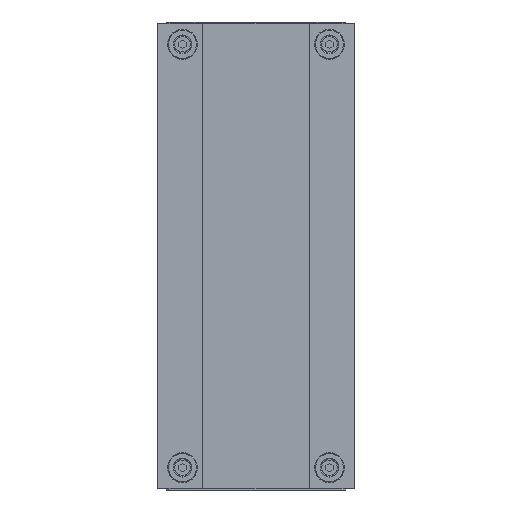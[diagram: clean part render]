
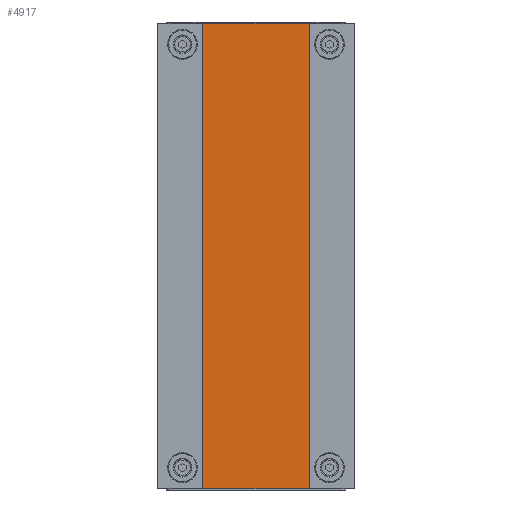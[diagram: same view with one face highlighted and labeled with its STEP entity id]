
A CAD part, front view. The second image highlights one B-rep face of the part: STEP entity #4917.
In plain terms, the highlighted planar face has unit normal (0, -1, 0).
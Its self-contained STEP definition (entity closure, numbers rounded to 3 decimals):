
#5 = EDGE_CURVE ( 'NONE', #10499, #9671, #148, .T. ) ;
#148 = LINE ( 'NONE', #149, #150 ) ;
#149 = CARTESIAN_POINT ( 'NONE',  ( 49.5, -16., 198. ) ) ;
#150 = VECTOR ( 'NONE', #151, 1000. ) ;
#151 = DIRECTION ( 'NONE',  ( 0., 0., -1. ) ) ;
#1511 = LINE ( 'NONE', #1512, #1513 ) ;
#1512 = CARTESIAN_POINT ( 'NONE',  ( -49.5, -16., 198. ) ) ;
#1513 = VECTOR ( 'NONE', #1514, 1000. ) ;
#1514 = DIRECTION ( 'NONE',  ( 0., 0., -1. ) ) ;
#1650 = CARTESIAN_POINT ( 'NONE',  ( 49.5, -16., -198. ) ) ;
#1741 = CARTESIAN_POINT ( 'NONE',  ( -49.5, -16., 198. ) ) ;
#3144 = FACE_OUTER_BOUND ( 'NONE', #5233, .T. ) ;
#3145 = PLANE ( 'NONE',  #3146 ) ;
#3146 = AXIS2_PLACEMENT_3D ( 'NONE', #3147, #3148, #3149 ) ;
#3147 = CARTESIAN_POINT ( 'NONE',  ( 49.5, -16., 198. ) ) ;
#3148 = DIRECTION ( 'NONE',  ( 0., 1., 0. ) ) ;
#3149 = DIRECTION ( 'NONE',  ( -1., 0., 0. ) ) ;
#3965 = LINE ( 'NONE', #3966, #3967 ) ;
#3966 = CARTESIAN_POINT ( 'NONE',  ( 49.5, -16., -198. ) ) ;
#3967 = VECTOR ( 'NONE', #3968, 1000. ) ;
#3968 = DIRECTION ( 'NONE',  ( 1., 0., 0. ) ) ;
#4528 = CARTESIAN_POINT ( 'NONE',  ( 49.5, -16., 198. ) ) ;
#4820 = LINE ( 'NONE', #4824, #4825 ) ;
#4824 = CARTESIAN_POINT ( 'NONE',  ( 49.5, -16., 198. ) ) ;
#4825 = VECTOR ( 'NONE', #4826, 1000. ) ;
#4826 = DIRECTION ( 'NONE',  ( 1., 0., 0. ) ) ;
#4917 = ADVANCED_FACE ( 'NONE', ( #3144 ), #3145, .F. ) ;
#5233 = EDGE_LOOP ( 'NONE', ( #5714, #6608, #7131, #8051 ) ) ;
#5714 = ORIENTED_EDGE ( 'NONE', *, *, #6074, .T. ) ;
#6074 = EDGE_CURVE ( 'NONE', #9400, #9671, #3965, .T. ) ;
#6608 = ORIENTED_EDGE ( 'NONE', *, *, #5, .F. ) ;
#7131 = ORIENTED_EDGE ( 'NONE', *, *, #7486, .F. ) ;
#7486 = EDGE_CURVE ( 'NONE', #9699, #10499, #4820, .T. ) ;
#7515 = CARTESIAN_POINT ( 'NONE',  ( -49.5, -16., -198. ) ) ;
#8051 = ORIENTED_EDGE ( 'NONE', *, *, #9625, .T. ) ;
#9400 = VERTEX_POINT ( 'NONE', #7515 ) ;
#9625 = EDGE_CURVE ( 'NONE', #9699, #9400, #1511, .T. ) ;
#9671 = VERTEX_POINT ( 'NONE', #1650 ) ;
#9699 = VERTEX_POINT ( 'NONE', #1741 ) ;
#10499 = VERTEX_POINT ( 'NONE', #4528 ) ;
